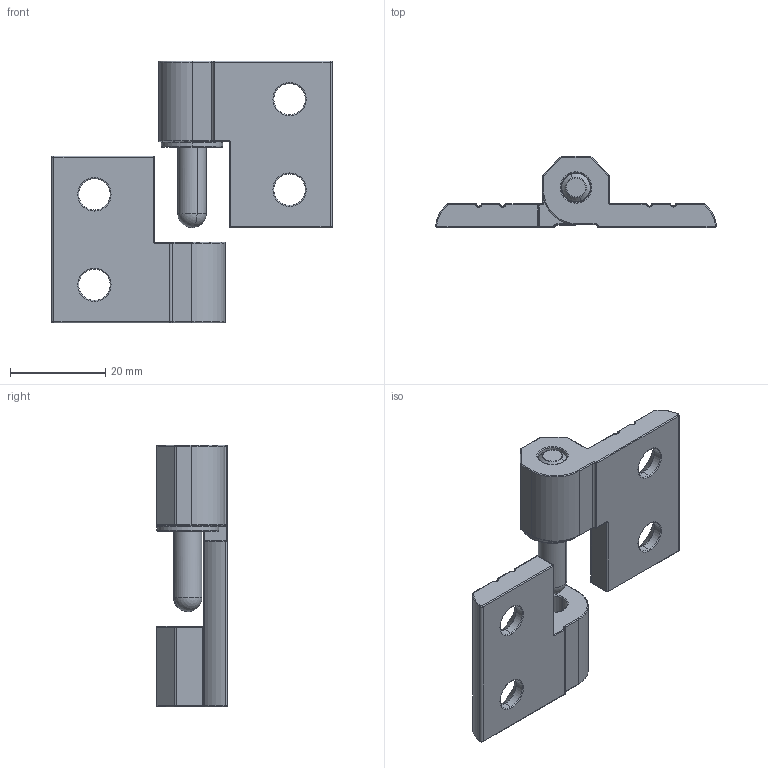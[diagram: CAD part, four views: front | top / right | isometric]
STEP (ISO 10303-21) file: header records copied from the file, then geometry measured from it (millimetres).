
FILE_DESCRIPTION (( 'STEP AP214' ), '1' );
FILE_NAME ('HGA-5935-4119-R.STEP', '2020-03-23T07:14:53', ( '' ), ( '' ), 'SwSTEP 2.0', 'SolidWorks 2016', '' );
FILE_SCHEMA (( 'AUTOMOTIVE_DESIGN' ));
Length unit declared in the file: millimetre
Products named in the file (4): 縡?ﾆｬ; 脣誏; HGA-5935-4119-R; 墊片
Assembly tree (4 placements, depth 2):
  HGA-5935-4119-R
    縡?ﾆｬ  x2
    脣誏
    墊片
Bounding box: 59 x 15 x 55 mm (x, y, z)
Volume: 12260.5 mm3; surface area: 7737 mm2
Topology: 4 solids, 4 shells, 612 faces, 1493 edges, 827 vertices
Faces by surface type: cylinder 291, torus 114, plane 99, sphere 62, bspline 36, cone 10
Entity records: 13617 total; most frequent: CARTESIAN_POINT 3463, DIRECTION 2333, ORIENTED_EDGE 2042, AXIS2_PLACEMENT_3D 1031, EDGE_CURVE 1021, CIRCLE 620, VERTEX_POINT 603, EDGE_LOOP 428
